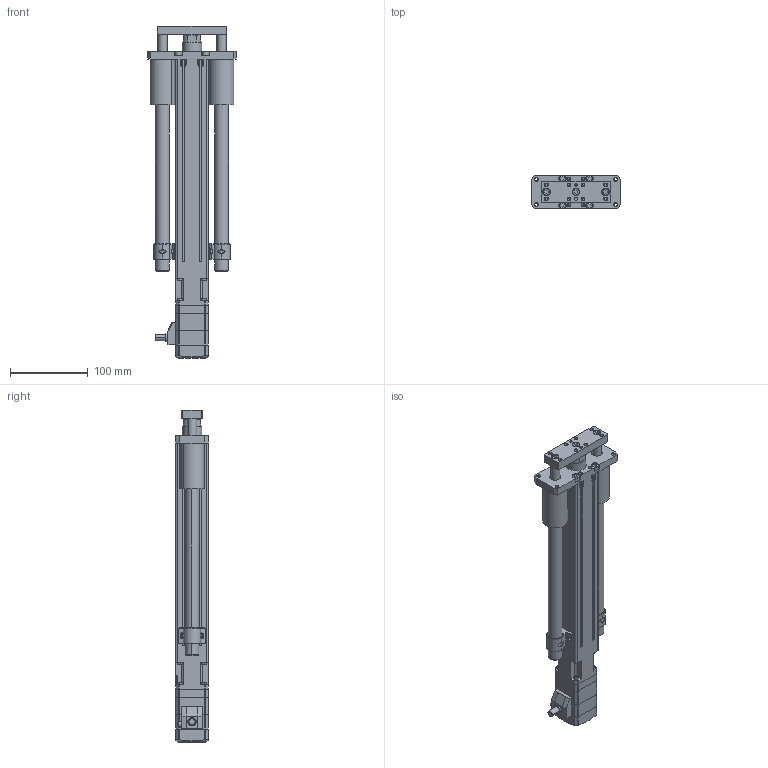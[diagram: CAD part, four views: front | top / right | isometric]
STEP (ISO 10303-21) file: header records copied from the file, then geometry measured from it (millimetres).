
FILE_DESCRIPTION (( 'STEP AP203' ), '1' );
FILE_NAME ('EACM4WD20ARAC-G.step', '2013-11-01T07:40:07', ( 'om' ), ( 'Hewlett-Packard Company' ), 'SwSTEP 2.0', 'SolidWorks 2011', '' );
FILE_SCHEMA (( 'CONFIG_CONTROL_DESIGN' ));
Length unit declared in the file: millimetre
Products named in the file (5): EACM4WD20ARAC-G; EACM4WD20ARAC-G_Nut; EACM4WD20ARAC-G_Rod; EACM4WD20ARAC-G_BASE; EACM4WD20ARAC-G_Motor
Assembly tree (3 placements, depth 2):
  EACM4WD20ARAC-G
    EACM4WD20ARAC-G_Rod
    EACM4WD20ARAC-G_BASE
    EACM4WD20ARAC-G_Motor
  EACM4WD20ARAC-G_Nut
Bounding box: 114 x 43.49 x 427.4 mm (x, y, z)
Volume: 881680.7 mm3; surface area: 257292 mm2
Topology: 3 solids, 14 shells, 1207 faces, 3081 edges, 1966 vertices
Faces by surface type: plane 614, cylinder 409, cone 126, torus 44, bspline 12, sphere 2
Entity records: 37505 total; most frequent: CARTESIAN_POINT 7255, DIRECTION 6384, ORIENTED_EDGE 6130, EDGE_CURVE 3065, AXIS2_PLACEMENT_3D 2301, VERTEX_POINT 1966, VECTOR 1782, LINE 1782
